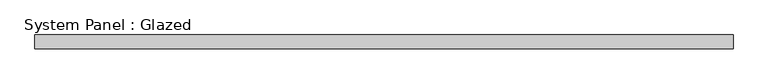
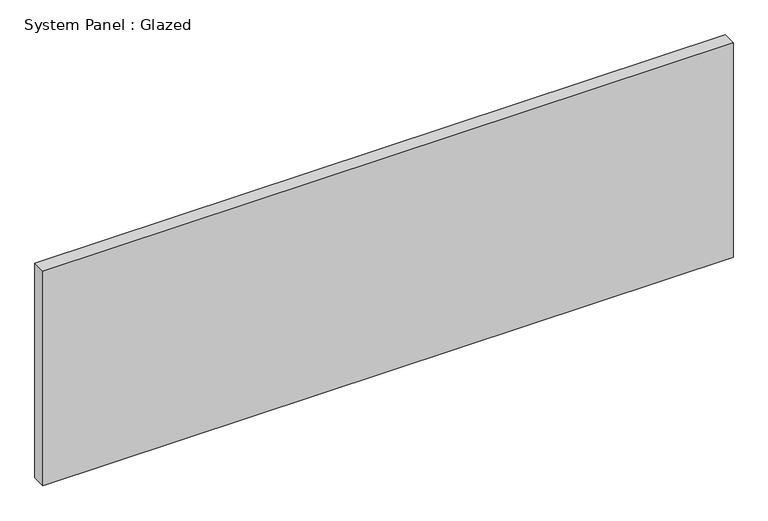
"""IFC4 building model written with IfcOpenShell, lengths in millimetres: plate geometry, System Panel : Glazed."""

from ifc_helpers import new_model, si_unit, origin, origin_with_axes, place, context, project, spatial, polyline, outline, extrude, source, transform, mapped, element, save


def system_panel_glazed_0d1daa48(model_context):
    return source(origin(), model_context, "Body", "SweptSolid", [
        extrude(outline(polyline([(620.2777778, -49.5), (-620.2777778, -49.5), (-620.2777778, -24.5), (620.2777778, -24.5), (620.2777778, -49.5)])), origin_with_axes(), (0.0, 0.0, 1.0), 407.2),
    ])


if __name__ == "__main__":
    model = new_model("IFC4")
    model_context = context("Model", 3, world=origin())
    ifc_project = project(units=[si_unit("LENGTHUNIT", "METRE", prefix="MILLI")], contexts=[model_context])
    site = spatial("IfcSite", under=ifc_project)
    building = spatial("IfcBuilding", under=site)
    placement = place(None, origin())
    system_panel_glazed_shape = system_panel_glazed_0d1daa48(model_context)
    element("IfcPlate", 1, ObjectType="System Panel : Glazed", at=placement, inside=building, context=model_context, shape_type="MappedRepresentation", body=[
        mapped(system_panel_glazed_shape, transform((0.0, 0.0, 0.0), x_axis=(1.0, 0.0, 0.0), y_axis=(0.0, 1.0, 0.0), z_axis=(0.0, 0.0, 1.0))),
    ])
    save(model, "model.ifc")
